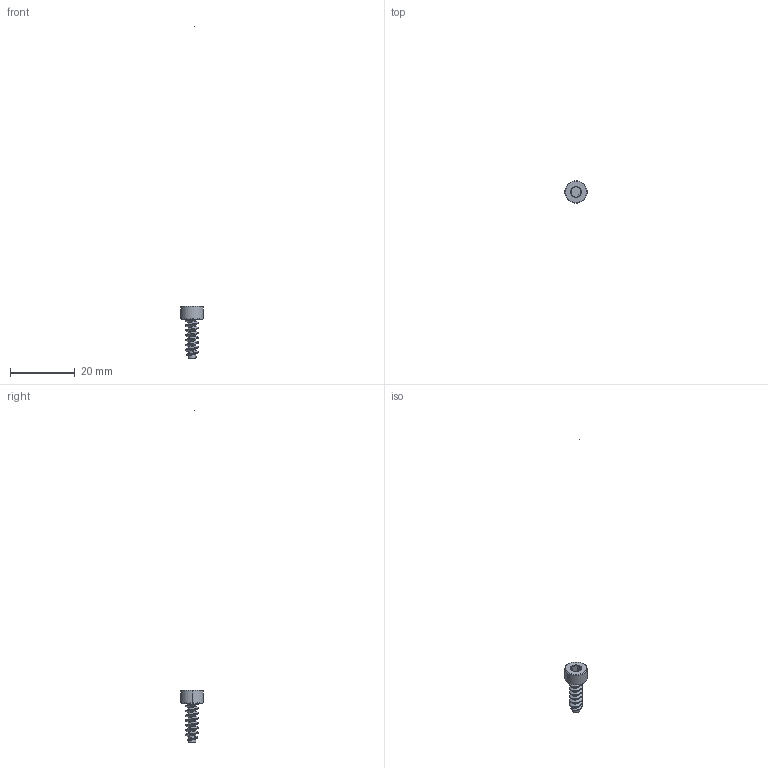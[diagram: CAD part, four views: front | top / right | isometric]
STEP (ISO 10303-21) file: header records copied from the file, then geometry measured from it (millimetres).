
FILE_DESCRIPTION (( 'STEP AP203' ), '1' );
FILE_NAME ('2815-0004-0012.STEP', '2021-04-28T21:02:18', ( '' ), ( '' ), 'SwSTEP 2.0', 'SolidWorks 2016', '' );
FILE_SCHEMA (( 'CONFIG_CONTROL_DESIGN' ));
Length unit declared in the file: millimetre
Products named in the file (1): 2815-0004-0012
Bounding box: 7 x 7 x 102.66 mm (x, y, z)
Surface area: 364.2 mm2 (no closed solid volume)
Topology: 0 solids, 5 shells, 64 faces, 151 edges, 95 vertices
Faces by surface type: cylinder 21, bspline 20, plane 12, cone 11
Entity records: 6241 total; most frequent: CARTESIAN_POINT 4892, ORIENTED_EDGE 290, DIRECTION 191, EDGE_CURVE 151, VERTEX_POINT 95, B_SPLINE_CURVE_WITH_KNOTS 70, EDGE_LOOP 66, AXIS2_PLACEMENT_3D 65
